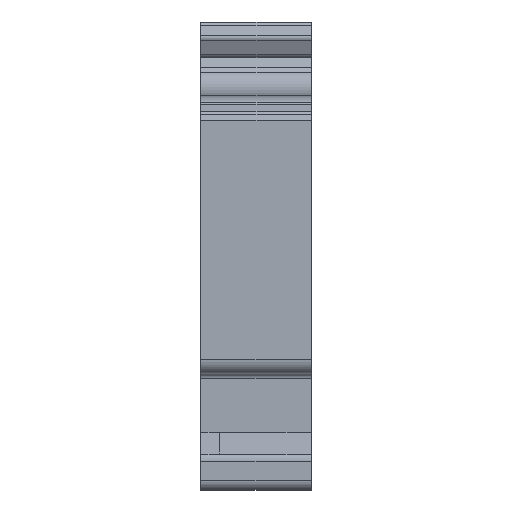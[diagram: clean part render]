
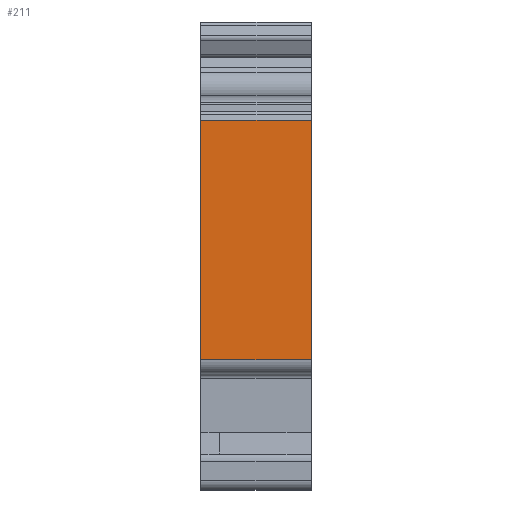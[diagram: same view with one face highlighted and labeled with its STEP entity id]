
A CAD part, left-side view. The second image highlights one B-rep face of the part: STEP entity #211.
In plain terms, the highlighted planar face has unit normal (-1, 0, 0).
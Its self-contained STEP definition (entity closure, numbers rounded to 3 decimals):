
#211 = ADVANCED_FACE( '', ( #553 ), #554, .F. );
#553 = FACE_OUTER_BOUND( '', #1025, .T. );
#554 = PLANE( '', #1026 );
#1025 = EDGE_LOOP( '', ( #1588, #1589, #1590, #1591 ) );
#1026 = AXIS2_PLACEMENT_3D( '', #1592, #1593, #1594 );
#1588 = ORIENTED_EDGE( '', *, *, #3015, .T. );
#1589 = ORIENTED_EDGE( '', *, *, #2975, .F. );
#1590 = ORIENTED_EDGE( '', *, *, #3016, .F. );
#1591 = ORIENTED_EDGE( '', *, *, #2968, .T. );
#1592 = CARTESIAN_POINT( '', ( -63.35, 11.9, 7.7 ) );
#1593 = DIRECTION( '', ( 1., 0., 0. ) );
#1594 = DIRECTION( '', ( 0., 0., -1. ) );
#2968 = EDGE_CURVE( '', #3596, #3594, #3597, .T. );
#2975 = EDGE_CURVE( '', #3607, #3602, #3609, .T. );
#3015 = EDGE_CURVE( '', #3594, #3602, #3677, .T. );
#3016 = EDGE_CURVE( '', #3596, #3607, #3678, .T. );
#3594 = VERTEX_POINT( '', #4502 );
#3596 = VERTEX_POINT( '', #4504 );
#3597 = LINE( '', #4505, #4506 );
#3602 = VERTEX_POINT( '', #4512 );
#3607 = VERTEX_POINT( '', #4519 );
#3609 = LINE( '', #4522, #4523 );
#3677 = LINE( '', #4615, #4616 );
#3678 = LINE( '', #4617, #4618 );
#4502 = CARTESIAN_POINT( '', ( -63.35, 0., 7.7 ) );
#4504 = CARTESIAN_POINT( '', ( -63.35, 11.9, 7.7 ) );
#4505 = CARTESIAN_POINT( '', ( -63.35, 11.9, 7.7 ) );
#4506 = VECTOR( '', #5621, 1000. );
#4512 = CARTESIAN_POINT( '', ( -63.35, 0., 33.536 ) );
#4519 = CARTESIAN_POINT( '', ( -63.35, 11.9, 33.536 ) );
#4522 = CARTESIAN_POINT( '', ( -63.35, 11.9, 33.536 ) );
#4523 = VECTOR( '', #5629, 1000. );
#4615 = CARTESIAN_POINT( '', ( -63.35, 0., 7.7 ) );
#4616 = VECTOR( '', #5678, 1000. );
#4617 = CARTESIAN_POINT( '', ( -63.35, 11.9, 7.7 ) );
#4618 = VECTOR( '', #5679, 1000. );
#5621 = DIRECTION( '', ( 0., -1., 0. ) );
#5629 = DIRECTION( '', ( 0., -1., 0. ) );
#5678 = DIRECTION( '', ( 0., 0., 1. ) );
#5679 = DIRECTION( '', ( 0., 0., 1. ) );
